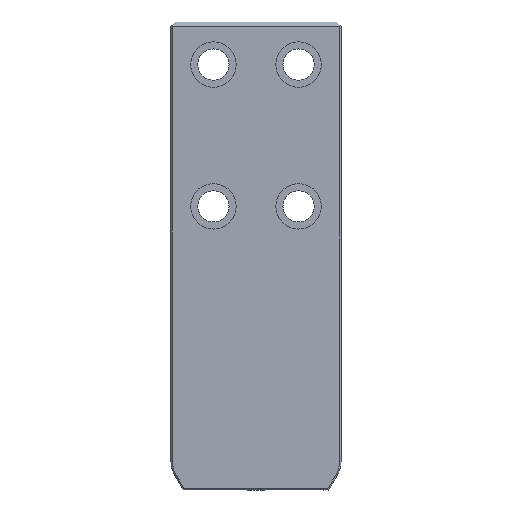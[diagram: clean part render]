
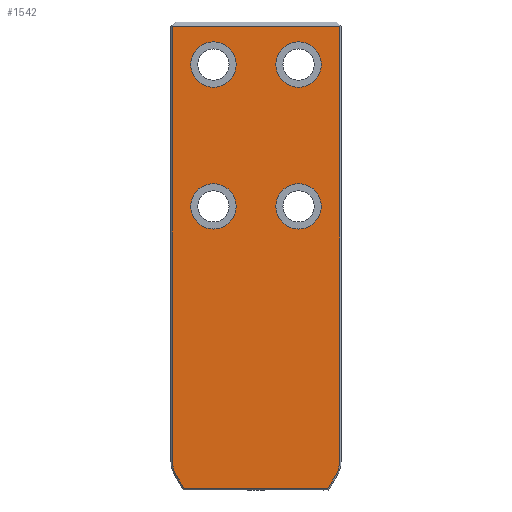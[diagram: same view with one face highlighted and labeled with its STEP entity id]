
A CAD part, front view. The second image highlights one B-rep face of the part: STEP entity #1542.
In plain terms, the highlighted planar face has unit normal (0, -1, 0).
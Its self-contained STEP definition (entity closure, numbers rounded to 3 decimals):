
#109=VERTEX_POINT(' ',#110);
#110=CARTESIAN_POINT('',(30.,-45.,-146.));
#111=VERTEX_POINT(' ',#112);
#112=CARTESIAN_POINT('',(30.,-45.,-114.));
#117=VERTEX_POINT(' ',#118);
#118=CARTESIAN_POINT('',(-30.,-45.,-46.));
#119=VERTEX_POINT(' ',#120);
#120=CARTESIAN_POINT('',(-30.,-45.,-14.));
#137=VERTEX_POINT(' ',#138);
#138=CARTESIAN_POINT('',(-30.,-45.,-146.));
#139=VERTEX_POINT(' ',#140);
#140=CARTESIAN_POINT('',(-30.,-45.,-114.));
#145=VERTEX_POINT(' ',#146);
#146=CARTESIAN_POINT('',(30.,-45.,-46.));
#147=VERTEX_POINT(' ',#148);
#148=CARTESIAN_POINT('',(30.,-45.,-14.));
#153=VERTEX_POINT(' ',#154);
#154=CARTESIAN_POINT('',(50.762,-45.,-329.));
#159=VERTEX_POINT(' ',#160);
#160=CARTESIAN_POINT('',(56.454,-45.,-319.141));
#163=VERTEX_POINT(' ',#164);
#164=CARTESIAN_POINT('',(59.,-45.,-309.641));
#167=VERTEX_POINT(' ',#168);
#168=CARTESIAN_POINT('',(59.,-45.,-170.));
#171=VERTEX_POINT(' ',#172);
#172=CARTESIAN_POINT('',(59.,-45.,-3.));
#177=VERTEX_POINT(' ',#178);
#178=CARTESIAN_POINT('',(-58.775,-45.,-3.));
#181=VERTEX_POINT(' ',#182);
#182=CARTESIAN_POINT('',(-59.,-45.,-3.112));
#187=VERTEX_POINT(' ',#188);
#188=CARTESIAN_POINT('',(-50.762,-45.,-329.));
#191=VERTEX_POINT(' ',#192);
#192=CARTESIAN_POINT('',(-59.,-45.,-170.));
#193=VERTEX_POINT(' ',#194);
#194=CARTESIAN_POINT('',(-59.,-45.,-309.641));
#195=VERTEX_POINT(' ',#196);
#196=CARTESIAN_POINT('',(-56.454,-45.,-319.141));
#363=CIRCLE('',#364,16.);
#364=AXIS2_PLACEMENT_3D('',#365,#366,#367);
#365=CARTESIAN_POINT('',(30.,-45.,-130.));
#366=DIRECTION('',(0.,1.,0.));
#367=DIRECTION('',(-1.,0.,0.));
#368=EDGE_CURVE(' ',#109,#111,#363,.F.);
#379=CIRCLE('',#380,16.);
#380=AXIS2_PLACEMENT_3D('',#381,#382,#383);
#381=CARTESIAN_POINT('',(30.,-45.,-130.));
#382=DIRECTION('',(0.,1.,0.));
#383=DIRECTION('',(1.,0.,0.));
#384=EDGE_CURVE(' ',#111,#109,#379,.F.);
#397=CIRCLE('',#398,16.);
#398=AXIS2_PLACEMENT_3D('',#399,#400,#401);
#399=CARTESIAN_POINT('',(-30.,-45.,-30.));
#400=DIRECTION('',(0.,1.,0.));
#401=DIRECTION('',(-1.,0.,0.));
#402=EDGE_CURVE(' ',#117,#119,#397,.F.);
#413=CIRCLE('',#414,16.);
#414=AXIS2_PLACEMENT_3D('',#415,#416,#417);
#415=CARTESIAN_POINT('',(-30.,-45.,-30.));
#416=DIRECTION('',(0.,1.,0.));
#417=DIRECTION('',(1.,0.,0.));
#418=EDGE_CURVE(' ',#119,#117,#413,.F.);
#487=CIRCLE('',#488,16.);
#488=AXIS2_PLACEMENT_3D('',#489,#490,#491);
#489=CARTESIAN_POINT('',(-30.,-45.,-130.));
#490=DIRECTION('',(0.,1.,0.));
#491=DIRECTION('',(-1.,0.,0.));
#492=EDGE_CURVE(' ',#137,#139,#487,.F.);
#509=CIRCLE('',#510,16.);
#510=AXIS2_PLACEMENT_3D('',#511,#512,#513);
#511=CARTESIAN_POINT('',(-30.,-45.,-130.));
#512=DIRECTION('',(0.,1.,0.));
#513=DIRECTION('',(1.,0.,0.));
#514=EDGE_CURVE(' ',#139,#137,#509,.F.);
#521=CIRCLE('',#522,16.);
#522=AXIS2_PLACEMENT_3D('',#523,#524,#525);
#523=CARTESIAN_POINT('',(30.,-45.,-30.));
#524=DIRECTION('',(0.,1.,0.));
#525=DIRECTION('',(-1.,0.,0.));
#526=EDGE_CURVE(' ',#145,#147,#521,.F.);
#543=CIRCLE('',#544,16.);
#544=AXIS2_PLACEMENT_3D('',#545,#546,#547);
#545=CARTESIAN_POINT('',(30.,-45.,-30.));
#546=DIRECTION('',(0.,1.,0.));
#547=DIRECTION('',(1.,0.,0.));
#548=EDGE_CURVE(' ',#147,#145,#543,.F.);
#570=LINE('',#571,#572);
#571=CARTESIAN_POINT('',(56.454,-45.,-319.141));
#572=VECTOR('',#573,1.);
#573=DIRECTION('',(-0.5,0.,-0.866));
#574=EDGE_CURVE(' ',#159,#153,#570,.T.);
#586=CIRCLE('',#587,19.);
#587=AXIS2_PLACEMENT_3D('',#588,#589,#590);
#588=CARTESIAN_POINT('',(40.,-45.,-309.641));
#589=DIRECTION('',(0.,1.,0.));
#590=DIRECTION('',(-0.966,0.,0.259));
#591=EDGE_CURVE(' ',#163,#159,#586,.T.);
#597=LINE('',#598,#599);
#598=CARTESIAN_POINT('',(59.,-45.,-170.));
#599=VECTOR('',#600,1.);
#600=DIRECTION('',(0.,0.,-1.));
#601=EDGE_CURVE(' ',#167,#163,#597,.T.);
#612=LINE('',#613,#614);
#613=CARTESIAN_POINT('',(59.,-45.,2.657));
#614=VECTOR('',#615,1.);
#615=DIRECTION('',(0.,0.,-1.));
#616=EDGE_CURVE(' ',#171,#167,#612,.T.);
#637=LINE('',#638,#639);
#638=CARTESIAN_POINT('',(-76.971,-45.,-3.));
#639=VECTOR('',#640,1.);
#640=DIRECTION('',(1.,0.,0.));
#641=EDGE_CURVE(' ',#177,#171,#637,.T.);
#652=LINE('',#653,#654);
#653=CARTESIAN_POINT('',(-10.555,-45.,21.11));
#654=VECTOR('',#655,1.);
#655=DIRECTION('',(-0.894,0.,-0.447));
#656=EDGE_CURVE(' ',#181,#177,#652,.F.);
#682=LINE('',#683,#684);
#683=CARTESIAN_POINT('',(-60.12,-45.,-329.));
#684=VECTOR('',#685,1.);
#685=DIRECTION('',(1.,0.,0.));
#686=EDGE_CURVE(' ',#187,#153,#682,.T.);
#687=LINE('',#688,#689);
#688=CARTESIAN_POINT('',(-59.,-45.,-170.));
#689=VECTOR('',#690,1.);
#690=DIRECTION('',(0.,0.,1.));
#691=EDGE_CURVE(' ',#191,#181,#687,.T.);
#692=LINE('',#693,#694);
#693=CARTESIAN_POINT('',(-59.,-45.,-309.641));
#694=VECTOR('',#695,1.);
#695=DIRECTION('',(0.,0.,1.));
#696=EDGE_CURVE(' ',#193,#191,#692,.T.);
#697=CIRCLE('',#698,19.);
#698=AXIS2_PLACEMENT_3D('',#699,#700,#701);
#699=CARTESIAN_POINT('',(-40.,-45.,-309.641));
#700=DIRECTION('',(0.,1.,0.));
#701=DIRECTION('',(0.966,0.,0.259));
#702=EDGE_CURVE(' ',#195,#193,#697,.T.);
#703=LINE('',#704,#705);
#704=CARTESIAN_POINT('',(-47.934,-45.,-333.899));
#705=VECTOR('',#706,1.);
#706=DIRECTION('',(-0.5,0.,0.866));
#707=EDGE_CURVE(' ',#187,#195,#703,.T.);
#1508=ORIENTED_EDGE('',*,*,#691,.F.);
#1509=ORIENTED_EDGE('',*,*,#696,.F.);
#1510=ORIENTED_EDGE('',*,*,#702,.F.);
#1511=ORIENTED_EDGE('',*,*,#707,.F.);
#1512=ORIENTED_EDGE('',*,*,#686,.T.);
#1513=ORIENTED_EDGE('',*,*,#574,.F.);
#1514=ORIENTED_EDGE('',*,*,#591,.F.);
#1515=ORIENTED_EDGE('',*,*,#601,.F.);
#1516=ORIENTED_EDGE('',*,*,#616,.F.);
#1517=ORIENTED_EDGE('',*,*,#641,.F.);
#1518=ORIENTED_EDGE('',*,*,#656,.F.);
#1519=EDGE_LOOP('',(#1508,#1509,#1510,#1511,#1512,#1513,#1514,#1515,#1516,#1517,#1518));
#1520=FACE_OUTER_BOUND('',#1519,.T.);
#1521=ORIENTED_EDGE('',*,*,#548,.F.);
#1522=ORIENTED_EDGE('',*,*,#526,.F.);
#1523=EDGE_LOOP('',(#1521,#1522));
#1524=FACE_BOUND('',#1523,.T.);
#1525=ORIENTED_EDGE('',*,*,#514,.F.);
#1526=ORIENTED_EDGE('',*,*,#492,.F.);
#1527=EDGE_LOOP('',(#1525,#1526));
#1528=FACE_BOUND('',#1527,.T.);
#1529=ORIENTED_EDGE('',*,*,#418,.F.);
#1530=ORIENTED_EDGE('',*,*,#402,.F.);
#1531=EDGE_LOOP('',(#1529,#1530));
#1532=FACE_BOUND('',#1531,.T.);
#1533=ORIENTED_EDGE('',*,*,#384,.F.);
#1534=ORIENTED_EDGE('',*,*,#368,.F.);
#1535=EDGE_LOOP('',(#1533,#1534));
#1536=FACE_BOUND('',#1535,.T.);
#1537=PLANE('',#1538);
#1538=AXIS2_PLACEMENT_3D('',#1539,#1540,#1541);
#1539=CARTESIAN_POINT('',(0.,-45.,0.));
#1540=DIRECTION('',(0.,-1.,0.));
#1541=DIRECTION('',(0.,0.,-1.));
#1542=ADVANCED_FACE('',(#1520,#1524,#1528,#1532,#1536),#1537,.T.);
